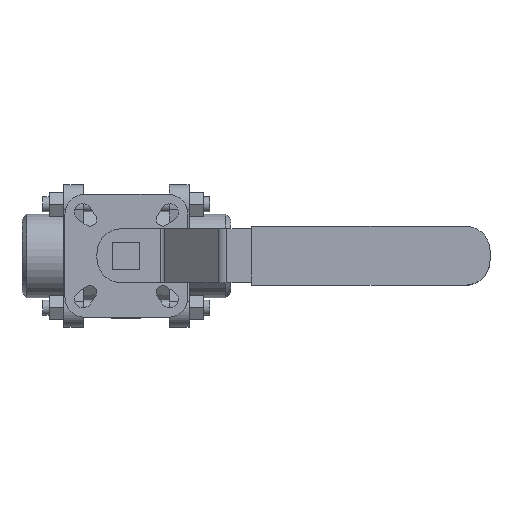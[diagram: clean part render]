
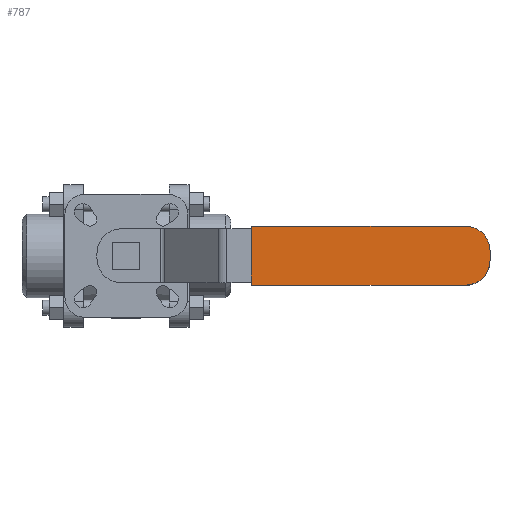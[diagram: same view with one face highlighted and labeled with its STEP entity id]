
A CAD part, top view. The second image highlights one B-rep face of the part: STEP entity #787.
In plain terms, the highlighted planar face has unit normal (0, 0, 1).
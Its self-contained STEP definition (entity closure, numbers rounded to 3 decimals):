
#787 = ADVANCED_FACE( '', ( #1698 ), #1699, .F. );
#1698 = FACE_OUTER_BOUND( '', #4249, .T. );
#1699 = PLANE( '', #4250 );
#4249 = EDGE_LOOP( '', ( #6715, #6716, #6717, #6718, #6719, #6720 ) );
#4250 = AXIS2_PLACEMENT_3D( '', #6721, #6722, #6723 );
#6715 = ORIENTED_EDGE( '', *, *, #7992, .T. );
#6716 = ORIENTED_EDGE( '', *, *, #8031, .T. );
#6717 = ORIENTED_EDGE( '', *, *, #8032, .T. );
#6718 = ORIENTED_EDGE( '', *, *, #8033, .F. );
#6719 = ORIENTED_EDGE( '', *, *, #7197, .F. );
#6720 = ORIENTED_EDGE( '', *, *, #8034, .T. );
#6721 = CARTESIAN_POINT( '', ( 148., -12., 28. ) );
#6722 = DIRECTION( '', ( 0., 0., -1. ) );
#6723 = DIRECTION( '', ( -1., 0., 0. ) );
#7197 = EDGE_CURVE( '', #8189, #8191, #8192, .T. );
#7992 = EDGE_CURVE( '', #9410, #9408, #9411, .T. );
#8031 = EDGE_CURVE( '', #9408, #9455, #9456, .F. );
#8032 = EDGE_CURVE( '', #9455, #9457, #9458, .T. );
#8033 = EDGE_CURVE( '', #8191, #9457, #9459, .T. );
#8034 = EDGE_CURVE( '', #8189, #9410, #9460, .F. );
#8189 = VERTEX_POINT( '', #9748 );
#8191 = VERTEX_POINT( '', #9751 );
#8192 = LINE( '', #9752, #9753 );
#9408 = VERTEX_POINT( '', #13621 );
#9410 = VERTEX_POINT( '', #13624 );
#9411 = LINE( '', #13625, #13626 );
#9455 = VERTEX_POINT( '', #13687 );
#9456 = CIRCLE( '', #13688, 10. );
#9457 = VERTEX_POINT( '', #13689 );
#9458 = LINE( '', #13690, #13691 );
#9459 = LINE( '', #13692, #13693 );
#9460 = CIRCLE( '', #13694, 10. );
#9748 = CARTESIAN_POINT( '', ( 138., -12., 28. ) );
#9751 = CARTESIAN_POINT( '', ( 50.899, -12., 28. ) );
#9752 = CARTESIAN_POINT( '', ( 148., -12., 28. ) );
#9753 = VECTOR( '', #13877, 1000. );
#13621 = CARTESIAN_POINT( '', ( 148., 2., 28. ) );
#13624 = CARTESIAN_POINT( '', ( 148., -2., 28. ) );
#13625 = CARTESIAN_POINT( '', ( 148., -12., 28. ) );
#13626 = VECTOR( '', #14382, 1000. );
#13687 = CARTESIAN_POINT( '', ( 138., 12., 28. ) );
#13688 = AXIS2_PLACEMENT_3D( '', #14403, #14404, #14405 );
#13689 = CARTESIAN_POINT( '', ( 50.899, 12., 28. ) );
#13690 = CARTESIAN_POINT( '', ( 148., 12., 28. ) );
#13691 = VECTOR( '', #14406, 1000. );
#13692 = CARTESIAN_POINT( '', ( 50.899, -12., 28. ) );
#13693 = VECTOR( '', #14407, 1000. );
#13694 = AXIS2_PLACEMENT_3D( '', #14408, #14409, #14410 );
#13877 = DIRECTION( '', ( -1., 0., 0. ) );
#14382 = DIRECTION( '', ( 0., 1., 0. ) );
#14403 = CARTESIAN_POINT( '', ( 138., 2., 28. ) );
#14404 = DIRECTION( '', ( 0., 0., -1. ) );
#14405 = DIRECTION( '', ( -1., 0., 0. ) );
#14406 = DIRECTION( '', ( -1., 0., 0. ) );
#14407 = DIRECTION( '', ( 0., 1., 0. ) );
#14408 = CARTESIAN_POINT( '', ( 138., -2., 28. ) );
#14409 = DIRECTION( '', ( 0., 0., -1. ) );
#14410 = DIRECTION( '', ( -1., 0., 0. ) );
